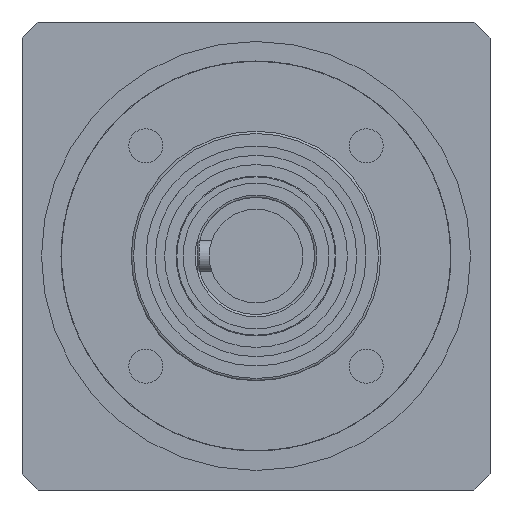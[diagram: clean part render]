
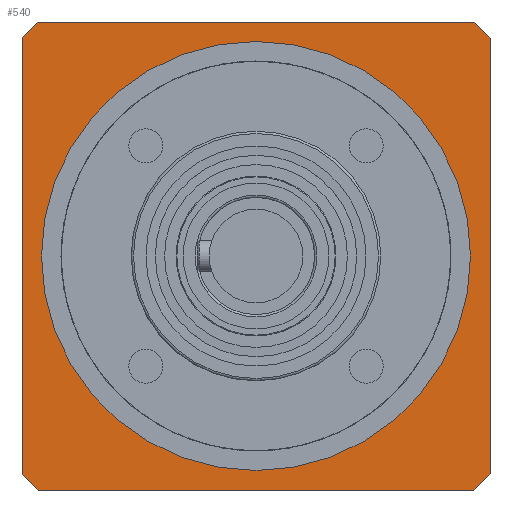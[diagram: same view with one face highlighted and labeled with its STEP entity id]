
A CAD part, left-side view. The second image highlights one B-rep face of the part: STEP entity #540.
In plain terms, the highlighted planar face has unit normal (-1, 0, 0).
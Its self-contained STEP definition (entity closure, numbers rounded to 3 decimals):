
#76=LINE('',#3151,#130);
#77=LINE('',#3155,#131);
#78=LINE('',#3159,#132);
#79=LINE('',#3163,#133);
#130=VECTOR('',#2616,1.);
#131=VECTOR('',#2619,1.);
#132=VECTOR('',#2622,1.);
#133=VECTOR('',#2625,1.);
#173=FACE_OUTER_BOUND('',#999,.T.);
#415=PLANE('',#2094);
#540=ADVANCED_FACE('',(#173),#415,.T.);
#999=EDGE_LOOP('',(#1323,#1324,#1325,#1326,#1327,#1328,#1329,#1330));
#1323=ORIENTED_EDGE('',*,*,#1707,.F.);
#1324=ORIENTED_EDGE('',*,*,#1708,.F.);
#1325=ORIENTED_EDGE('',*,*,#1709,.F.);
#1326=ORIENTED_EDGE('',*,*,#1710,.F.);
#1327=ORIENTED_EDGE('',*,*,#1711,.F.);
#1328=ORIENTED_EDGE('',*,*,#1712,.F.);
#1329=ORIENTED_EDGE('',*,*,#1713,.F.);
#1330=ORIENTED_EDGE('',*,*,#1714,.F.);
#1530=VERTEX_POINT('',#3149);
#1531=VERTEX_POINT('',#3150);
#1532=VERTEX_POINT('',#3152);
#1533=VERTEX_POINT('',#3154);
#1534=VERTEX_POINT('',#3156);
#1535=VERTEX_POINT('',#3158);
#1536=VERTEX_POINT('',#3160);
#1537=VERTEX_POINT('',#3162);
#1707=EDGE_CURVE('',#1530,#1531,#1848,.T.);
#1708=EDGE_CURVE('',#1532,#1530,#76,.T.);
#1709=EDGE_CURVE('',#1533,#1532,#1849,.T.);
#1710=EDGE_CURVE('',#1534,#1533,#77,.T.);
#1711=EDGE_CURVE('',#1535,#1534,#1850,.T.);
#1712=EDGE_CURVE('',#1536,#1535,#78,.T.);
#1713=EDGE_CURVE('',#1537,#1536,#1851,.T.);
#1714=EDGE_CURVE('',#1531,#1537,#79,.T.);
#1848=CIRCLE('',#2090,41.);
#1849=CIRCLE('',#2091,41.);
#1850=CIRCLE('',#2092,41.);
#1851=CIRCLE('',#2093,41.);
#2090=AXIS2_PLACEMENT_3D('',#3148,#2614,#2615);
#2091=AXIS2_PLACEMENT_3D('',#3153,#2617,#2618);
#2092=AXIS2_PLACEMENT_3D('',#3157,#2620,#2621);
#2093=AXIS2_PLACEMENT_3D('',#3161,#2623,#2624);
#2094=AXIS2_PLACEMENT_3D('',#3164,#2626,#2627);
#2614=DIRECTION('',(1.,0.,0.));
#2615=DIRECTION('',(0.,0.,1.));
#2616=DIRECTION('',(0.,-1.,0.));
#2617=DIRECTION('',(1.,0.,0.));
#2618=DIRECTION('',(0.,1.,0.));
#2619=DIRECTION('',(0.,0.,1.));
#2620=DIRECTION('',(1.,0.,0.));
#2621=DIRECTION('',(0.,0.,-1.));
#2622=DIRECTION('',(0.,1.,0.));
#2623=DIRECTION('',(1.,0.,0.));
#2624=DIRECTION('',(0.,-1.,0.));
#2625=DIRECTION('',(0.,0.,-1.));
#2626=DIRECTION('',(-1.,0.,0.));
#2627=DIRECTION('',(0.,1.,0.));
#3148=CARTESIAN_POINT('',(0.,0.,0.));
#3149=CARTESIAN_POINT('',(0.,-27.946,30.));
#3150=CARTESIAN_POINT('',(0.,-30.,27.946));
#3151=CARTESIAN_POINT('',(0.,0.,30.));
#3152=CARTESIAN_POINT('',(0.,27.946,30.));
#3153=CARTESIAN_POINT('',(0.,0.,0.));
#3154=CARTESIAN_POINT('',(0.,30.,27.946));
#3155=CARTESIAN_POINT('',(0.,30.,0.));
#3156=CARTESIAN_POINT('',(0.,30.,-27.946));
#3157=CARTESIAN_POINT('',(0.,0.,0.));
#3158=CARTESIAN_POINT('',(0.,27.946,-30.));
#3159=CARTESIAN_POINT('',(0.,0.,-30.));
#3160=CARTESIAN_POINT('',(0.,-27.946,-30.));
#3161=CARTESIAN_POINT('',(0.,0.,0.));
#3162=CARTESIAN_POINT('',(0.,-30.,-27.946));
#3163=CARTESIAN_POINT('',(0.,-30.,0.));
#3164=CARTESIAN_POINT('',(0.,0.,0.));
